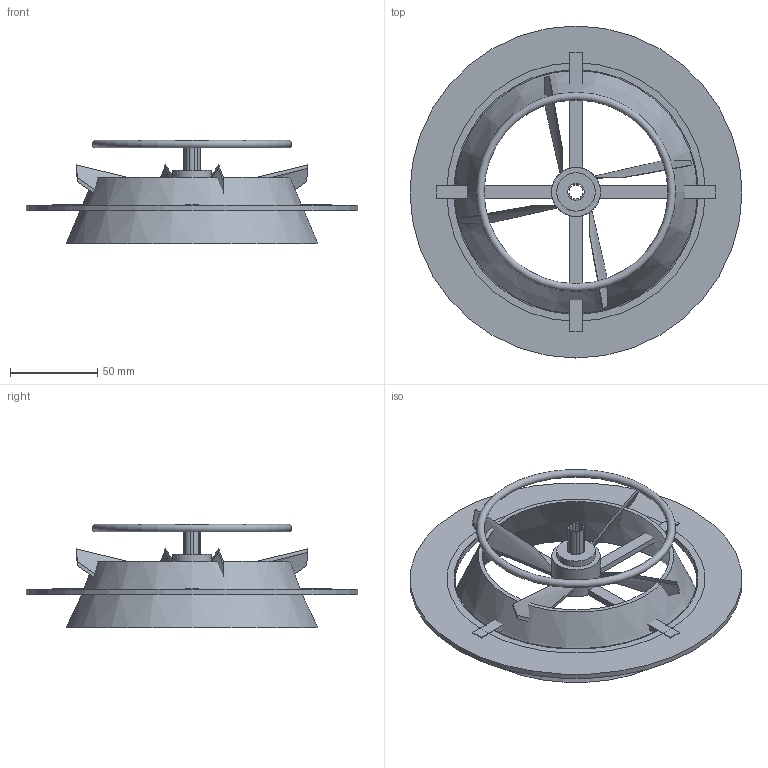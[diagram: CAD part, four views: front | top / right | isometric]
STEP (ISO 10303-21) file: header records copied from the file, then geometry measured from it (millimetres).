
FILE_DESCRIPTION(('Open CASCADE Model'),'2;1');
FILE_NAME('Open CASCADE Shape Model','2026-10-27T17:03:33',('Author'),( 'Open CASCADE'),'Open CASCADE STEP processor 8.0','build123d', 'Unknown');
FILE_SCHEMA(('AUTOMOTIVE_DESIGN { 1 0 10303 214 1 1 1 1 }'));
Length unit declared in the file: millimetre
Products named in the file (4): COMPOUND
Assembly tree (3 placements, depth 2):
  COMPOUND
    COMPOUND
    COMPOUND
    COMPOUND
Bounding box: 190 x 190 x 59.2 mm (x, y, z)
Volume: 112307.8 mm3; surface area: 92451.7 mm2
Topology: 5 solids, 5 shells, 98 faces, 264 edges, 173 vertices
Faces by surface type: plane 53, cylinder 26, bspline 16, cone 2, torus 1
Full cylindrical faces by diameter (mm): 9.6 x2, 22 x1, 28 x2, 139 x1, 148 x1, 190 x1
Entity records: 6795 total; most frequent: CARTESIAN_POINT 1813, DIRECTION 787, ORIENTED_EDGE 528, PCURVE 528, DEFINITIONAL_REPRESENTATION 528, LINE 454, VECTOR 454, EDGE_CURVE 264
